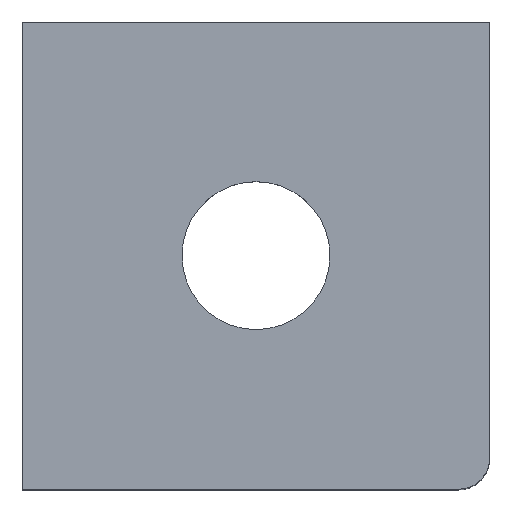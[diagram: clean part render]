
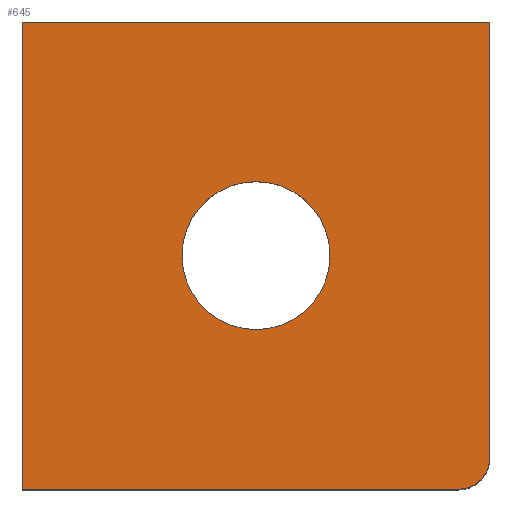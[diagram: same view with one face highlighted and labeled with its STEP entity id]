
A CAD part, top view. The second image highlights one B-rep face of the part: STEP entity #645.
In plain terms, the highlighted planar face has unit normal (0, 0, 1).
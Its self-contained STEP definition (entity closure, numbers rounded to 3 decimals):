
#28 = CARTESIAN_POINT ( 'NONE',  ( 15.536, 12.991, 30. ) ) ;
#34 = VERTEX_POINT ( 'NONE', #90 ) ;
#37 = EDGE_LOOP ( 'NONE', ( #284, #677 ) ) ;
#46 = VERTEX_POINT ( 'NONE', #388 ) ;
#61 = EDGE_CURVE ( 'NONE', #1225, #1129, #1120, .T. ) ;
#73 = LINE ( 'NONE', #609, #1162 ) ;
#90 = CARTESIAN_POINT ( 'NONE',  ( 13.536, -17.009, 30. ) ) ;
#101 = EDGE_CURVE ( 'NONE', #1129, #1225, #710, .T. ) ;
#107 = DIRECTION ( 'NONE',  ( 0., 0., 1. ) ) ;
#108 = DIRECTION ( 'NONE',  ( -1., 0., 0. ) ) ;
#111 = ORIENTED_EDGE ( 'NONE', *, *, #374, .T. ) ;
#135 = CARTESIAN_POINT ( 'NONE',  ( -4.214, -2.009, 30. ) ) ;
#180 = ORIENTED_EDGE ( 'NONE', *, *, #1062, .T. ) ;
#200 = CARTESIAN_POINT ( 'NONE',  ( 0.536, -2.009, 30. ) ) ;
#221 = AXIS2_PLACEMENT_3D ( 'NONE', #579, #1179, #402 ) ;
#232 = VECTOR ( 'NONE', #423, 1000. ) ;
#276 = AXIS2_PLACEMENT_3D ( 'NONE', #1163, #107, #292 ) ;
#284 = ORIENTED_EDGE ( 'NONE', *, *, #61, .T. ) ;
#292 = DIRECTION ( 'NONE',  ( 1., 0., 0. ) ) ;
#374 = EDGE_CURVE ( 'NONE', #671, #799, #624, .T. ) ;
#388 = CARTESIAN_POINT ( 'NONE',  ( 15.536, 12.991, 30. ) ) ;
#402 = DIRECTION ( 'NONE',  ( -1., 0., 0. ) ) ;
#423 = DIRECTION ( 'NONE',  ( 0., 1., 0. ) ) ;
#456 = CARTESIAN_POINT ( 'NONE',  ( -14.464, 12.991, 30. ) ) ;
#497 = CARTESIAN_POINT ( 'NONE',  ( -14.464, 12.991, 30. ) ) ;
#541 = DIRECTION ( 'NONE',  ( 0., 0., 1. ) ) ;
#553 = ORIENTED_EDGE ( 'NONE', *, *, #776, .T. ) ;
#579 = CARTESIAN_POINT ( 'NONE',  ( 0.536, -2.009, 30. ) ) ;
#592 = DIRECTION ( 'NONE',  ( 1., 0., 0. ) ) ;
#609 = CARTESIAN_POINT ( 'NONE',  ( -14.464, 12.991, 30. ) ) ;
#624 = LINE ( 'NONE', #456, #798 ) ;
#626 = ORIENTED_EDGE ( 'NONE', *, *, #1022, .T. ) ;
#645 = ADVANCED_FACE ( 'NONE', ( #935, #1093 ), #952, .T. ) ;
#671 = VERTEX_POINT ( 'NONE', #497 ) ;
#677 = ORIENTED_EDGE ( 'NONE', *, *, #101, .T. ) ;
#710 = CIRCLE ( 'NONE', #221, 4.75 ) ;
#722 = EDGE_LOOP ( 'NONE', ( #553, #1226, #626, #180, #111 ) ) ;
#764 = VECTOR ( 'NONE', #592, 1000. ) ;
#774 = LINE ( 'NONE', #28, #232 ) ;
#776 = EDGE_CURVE ( 'NONE', #799, #34, #1034, .T. ) ;
#798 = VECTOR ( 'NONE', #915, 1000. ) ;
#799 = VERTEX_POINT ( 'NONE', #1084 ) ;
#862 = DIRECTION ( 'NONE',  ( 0., 0., -1. ) ) ;
#879 = AXIS2_PLACEMENT_3D ( 'NONE', #200, #862, #1153 ) ;
#887 = EDGE_CURVE ( 'NONE', #34, #1192, #1128, .T. ) ;
#892 = CARTESIAN_POINT ( 'NONE',  ( 5.286, -2.009, 30. ) ) ;
#895 = AXIS2_PLACEMENT_3D ( 'NONE', #911, #541, #927 ) ;
#911 = CARTESIAN_POINT ( 'NONE',  ( 13.536, -15.009, 30. ) ) ;
#915 = DIRECTION ( 'NONE',  ( 0., -1., 0. ) ) ;
#927 = DIRECTION ( 'NONE',  ( 1., 0., 0. ) ) ;
#935 = FACE_BOUND ( 'NONE', #37, .T. ) ;
#938 = CARTESIAN_POINT ( 'NONE',  ( 15.536, -15.009, 30. ) ) ;
#952 = PLANE ( 'NONE',  #276 ) ;
#984 = CARTESIAN_POINT ( 'NONE',  ( -14.464, -17.009, 30. ) ) ;
#1022 = EDGE_CURVE ( 'NONE', #1192, #46, #774, .T. ) ;
#1034 = LINE ( 'NONE', #984, #764 ) ;
#1062 = EDGE_CURVE ( 'NONE', #46, #671, #73, .T. ) ;
#1084 = CARTESIAN_POINT ( 'NONE',  ( -14.464, -17.009, 30. ) ) ;
#1093 = FACE_OUTER_BOUND ( 'NONE', #722, .T. ) ;
#1120 = CIRCLE ( 'NONE', #879, 4.75 ) ;
#1128 = CIRCLE ( 'NONE', #895, 2. ) ;
#1129 = VERTEX_POINT ( 'NONE', #892 ) ;
#1153 = DIRECTION ( 'NONE',  ( -1., 0., 0. ) ) ;
#1162 = VECTOR ( 'NONE', #108, 1000. ) ;
#1163 = CARTESIAN_POINT ( 'NONE',  ( 0., 0., 30. ) ) ;
#1179 = DIRECTION ( 'NONE',  ( 0., 0., -1. ) ) ;
#1192 = VERTEX_POINT ( 'NONE', #938 ) ;
#1225 = VERTEX_POINT ( 'NONE', #135 ) ;
#1226 = ORIENTED_EDGE ( 'NONE', *, *, #887, .T. ) ;
